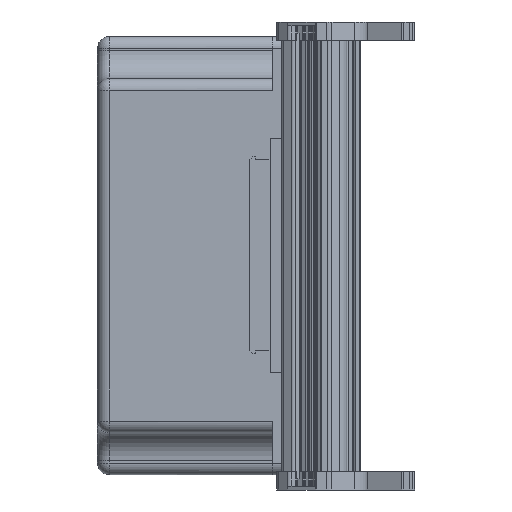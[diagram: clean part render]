
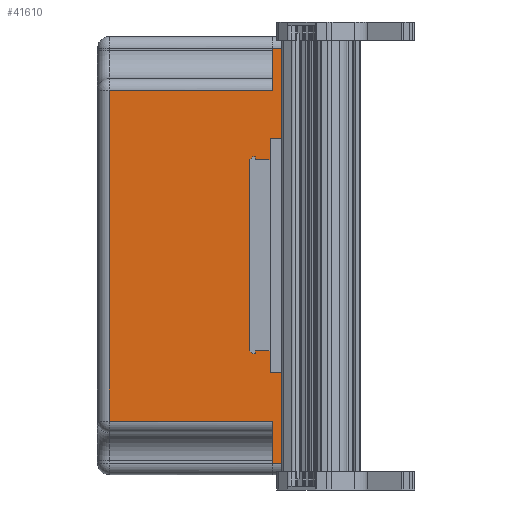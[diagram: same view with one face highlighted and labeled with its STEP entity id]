
A CAD part, left-side view. The second image highlights one B-rep face of the part: STEP entity #41610.
In plain terms, the highlighted planar face has unit normal (-1, 0, 0).
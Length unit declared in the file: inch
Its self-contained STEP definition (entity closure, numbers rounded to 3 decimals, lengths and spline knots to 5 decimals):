
#1674=DIRECTION('',(0.,0.,1.));
#1675=VECTOR('',#1674,4.45);
#1676=CARTESIAN_POINT('',(1.17291,0.81613,
0.17096));
#1677=LINE('',#1676,#1675);
#13985=DIRECTION('',(0.,-1.,0.));
#13986=VECTOR('',#13985,0.12);
#13987=CARTESIAN_POINT('',(1.17291,0.93613,
4.62096));
#13988=LINE('',#13987,#13986);
#14007=DIRECTION('',(0.,-1.,0.));
#14008=VECTOR('',#14007,0.12);
#14009=CARTESIAN_POINT('',(1.17291,0.93613,
0.17096));
#14010=LINE('',#14009,#14008);
#14192=DIRECTION('',(0.,0.,1.));
#14193=VECTOR('',#14192,3.55);
#14194=CARTESIAN_POINT('',(1.17291,2.69113,
0.62096));
#14195=LINE('',#14194,#14193);
#14369=DIRECTION('',(0.,0.,-1.));
#14370=VECTOR('',#14369,0.45);
#14371=CARTESIAN_POINT('',(1.17291,0.93613,
4.62096));
#14372=LINE('',#14371,#14370);
#14413=DIRECTION('',(0.,-1.,0.));
#14414=VECTOR('',#14413,1.755);
#14415=CARTESIAN_POINT('',(1.17291,2.69113,4.17096));
#14416=LINE('',#14415,#14414);
#14499=DIRECTION('',(0.,1.,0.));
#14500=VECTOR('',#14499,1.755);
#14501=CARTESIAN_POINT('',(1.17291,0.93613,
0.62096));
#14502=LINE('',#14501,#14500);
#14553=DIRECTION('',(0.,0.,-1.));
#14554=VECTOR('',#14553,0.45);
#14555=CARTESIAN_POINT('',(1.17291,0.93613,
0.62096));
#14556=LINE('',#14555,#14554);
#23337=CARTESIAN_POINT('',(1.17291,2.69113,
0.62096));
#23338=CARTESIAN_POINT('',(1.17291,2.69113,4.17096));
#23339=VERTEX_POINT('',#23337);
#23340=VERTEX_POINT('',#23338);
#23345=CARTESIAN_POINT('',(1.17291,0.93613,
4.17096));
#23346=VERTEX_POINT('',#23345);
#23411=CARTESIAN_POINT('',(1.17291,0.93613,
0.62096));
#23412=VERTEX_POINT('',#23411);
#23434=CARTESIAN_POINT('',(1.17291,0.93613,
0.17096));
#23436=VERTEX_POINT('',#23434);
#23441=CARTESIAN_POINT('',(1.17291,0.93613,
4.62096));
#23443=VERTEX_POINT('',#23441);
#23610=CARTESIAN_POINT('',(1.17291,0.81613,
0.17096));
#23611=CARTESIAN_POINT('',(1.17291,0.81613,
4.62096));
#23612=VERTEX_POINT('',#23610);
#23613=VERTEX_POINT('',#23611);
#41589=CARTESIAN_POINT('',(1.17291,0.81613,
0.49596));
#41590=DIRECTION('',(-1.,0.,0.));
#41591=DIRECTION('',(0.,0.,1.));
#41592=AXIS2_PLACEMENT_3D('',#41589,#41590,#41591);
#41593=PLANE('',#41592);
#41594=ORIENTED_EDGE('',*,*,#25024,.F.);
#41596=ORIENTED_EDGE('',*,*,#41595,.F.);
#41598=ORIENTED_EDGE('',*,*,#41597,.F.);
#41600=ORIENTED_EDGE('',*,*,#41599,.T.);
#41602=ORIENTED_EDGE('',*,*,#41601,.T.);
#41604=ORIENTED_EDGE('',*,*,#41603,.T.);
#41606=ORIENTED_EDGE('',*,*,#41605,.F.);
#41607=ORIENTED_EDGE('',*,*,#41581,.T.);
#41608=EDGE_LOOP('',(#41594,#41596,#41598,#41600,#41602,#41604,#41606,#41607));
#41609=FACE_OUTER_BOUND('',#41608,.F.);
#41610=ADVANCED_FACE('',(#41609),#41593,.T.);
#25024=EDGE_CURVE('',#23612,#23613,#1677,.T.);
#41581=EDGE_CURVE('',#23443,#23613,#13988,.T.);
#41595=EDGE_CURVE('',#23436,#23612,#14010,.T.);
#41597=EDGE_CURVE('',#23412,#23436,#14556,.T.);
#41599=EDGE_CURVE('',#23412,#23339,#14502,.T.);
#41601=EDGE_CURVE('',#23339,#23340,#14195,.T.);
#41603=EDGE_CURVE('',#23340,#23346,#14416,.T.);
#41605=EDGE_CURVE('',#23443,#23346,#14372,.T.);
